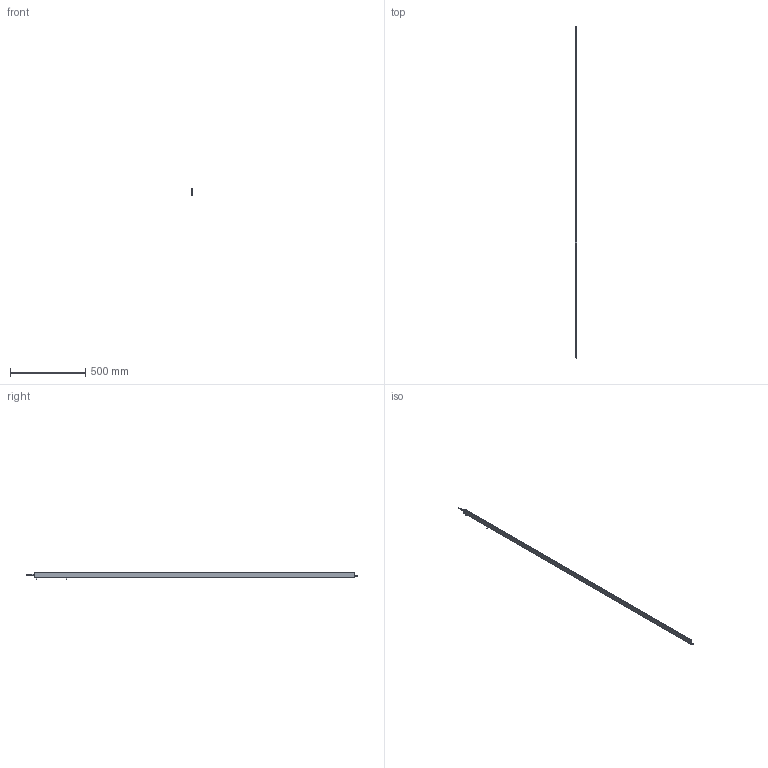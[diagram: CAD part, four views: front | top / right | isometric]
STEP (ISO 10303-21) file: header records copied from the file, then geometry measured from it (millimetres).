
FILE_DESCRIPTION (( 'STEP AP214' ), '1' );
FILE_NAME ('ILG-B-K2-2127mm.STEP', '2017-07-10T13:03:32', ( '' ), ( '' ), 'SwSTEP 2.0', 'SolidWorks 2016', '' );
FILE_SCHEMA (( 'AUTOMOTIVE_DESIGN' ));
Length unit declared in the file: millimetre
Products named in the file (1): ILG-B-K2-2127mm
Bounding box: 9 x 2200.5 x 46.21 mm (x, y, z)
Surface area: 353401.5 mm2 (no closed solid volume)
Topology: 0 solids, 15 shells, 702 faces, 1822 edges, 1157 vertices
Faces by surface type: cylinder 287, plane 266, cone 99, bspline 32, torus 18
Entity records: 31388 total; most frequent: CARTESIAN_POINT 6631, ORIENTED_EDGE 3597, DIRECTION 3488, EDGE_CURVE 1806, AXIS2_PLACEMENT_3D 1342, VERTEX_POINT 1157, VECTOR 804, LINE 804
